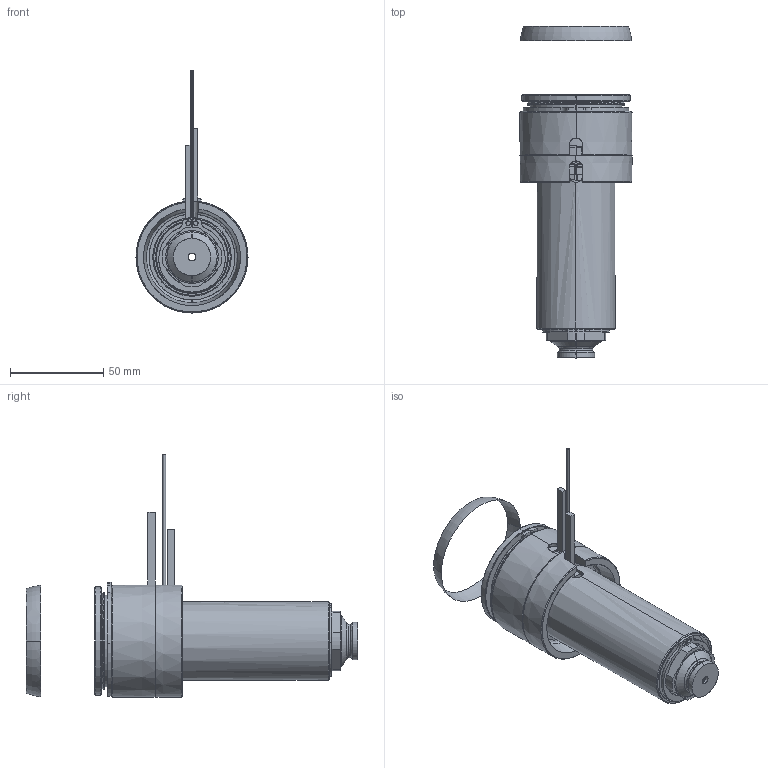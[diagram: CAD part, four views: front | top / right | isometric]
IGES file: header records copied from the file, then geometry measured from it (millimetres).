
Start section: SolidWorks IGES file using analytic representation for surfaces
Global section: file name: C:\Documents and Settings\ws-20\Desktop\TEM\UGER6604-S-A-0 [Øb-3.9 P-0 ØC-16].IGS; native system: SolidWorks 2012; preprocessor: SolidWorks 2012; author: ws-20; date: 120417.123631; units: millimetre
Bounding box: 60 x 177.77 x 129.65 mm (x, y, z)
Surface area: 78111 mm2 (no closed solid volume)
Topology: 0 solids, 0 shells, 165 faces, 3102 edges, 3102 vertices
Faces by surface type: revolution 102, bspline 63
